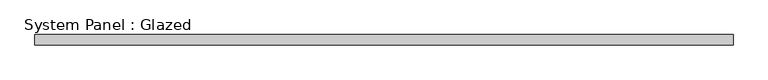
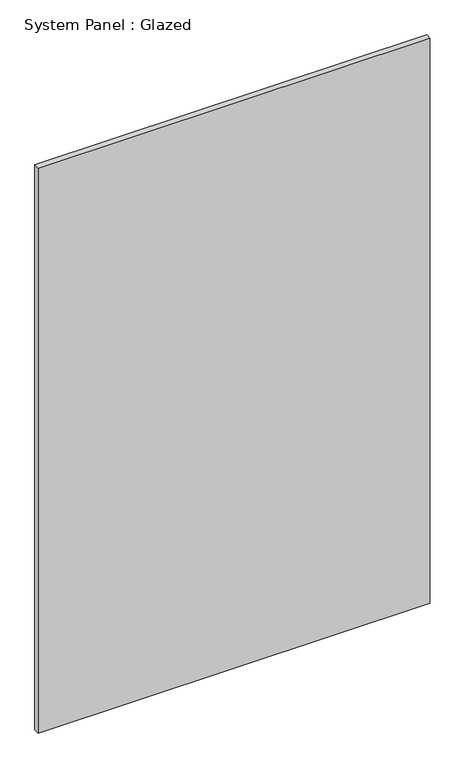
"""IFC4 building model written with IfcOpenShell, lengths in millimetres: plate geometry, System Panel : Glazed."""

import ifcopenshell
import ifcopenshell.guid

model = None  # the IFC model being written
_history = None  # IfcOwnerHistory: only IFC2X3 demands one
_inside = {}  # id of a spatial element -> (the spatial element, [elements in it])
_under = {}  # id of a project, library or spatial element -> (it, [spatial elements below it])
_declared = {}  # id of a project -> (the project, [libraries it declares])
_typed = {}  # id of a type object -> (the type object, [elements of that type])
_made_of = {}  # id of a material, layer set ... -> (it, [elements and type objects made of it])


def new_model(schema):
    """Start an empty IFC model of exactly this schema.

    Asked for "IFC4X3", IfcOpenShell would pick the latest addendum, in which some entities
    have other attributes; the version numbers below select the first issue.
    IFC2X3 requires an IfcOwnerHistory on every rooted entity: one is made here for all.
    """
    global model, _history
    if schema == "IFC4X3":
        model = ifcopenshell.file(schema_version=(4, 3, 0, 0))
    else:
        model = ifcopenshell.file(schema=schema)
    _inside.clear()
    _under.clear()
    _declared.clear()
    _typed.clear()
    _made_of.clear()
    _history = None
    if model.schema == "IFC2X3":
        org = make("IfcOrganization", Name="unknown")
        user = make(
            "IfcPersonAndOrganization",
            ThePerson=make("IfcPerson", FamilyName="unknown"),
            TheOrganization=org,
        )
        app = make(
            "IfcApplication",
            ApplicationDeveloper=org,
            Version="unknown",
            ApplicationFullName="unknown",
            ApplicationIdentifier="unknown",
        )
        _history = make(
            "IfcOwnerHistory",
            OwningUser=user,
            OwningApplication=app,
            ChangeAction="ADDED",
            CreationDate=0,
        )
    return model


def make(cls, **values):
    """One entity of the class cls with the attributes given. An attribute that is None is left unset."""
    return model.create_entity(
        cls, **{name: value for name, value in values.items() if value is not None}
    )


def rooted(cls, **values):
    """An entity with a GlobalId (a new one), such as an element, a storey or a relation."""
    return make(cls, GlobalId=ifcopenshell.guid.new(), OwnerHistory=_history, **values)


def si_unit(unit_type, name, prefix=None):
    """IfcSIUnit, for example si_unit("LENGTHUNIT", "METRE", prefix="MILLI")."""
    return make("IfcSIUnit", UnitType=unit_type, Prefix=prefix, Name=name)


def assignment(units):
    """IfcUnitAssignment: the units of a project."""
    return None if units is None else make("IfcUnitAssignment", Units=units)


def point(xyz):
    """IfcCartesianPoint."""
    return None if xyz is None else make("IfcCartesianPoint", Coordinates=xyz)


def direction(xyz):
    """IfcDirection."""
    return None if xyz is None else make("IfcDirection", DirectionRatios=xyz)


def frame(location, z_axis=None, x_axis=None):
    """IfcAxis2Placement3D, a coordinate frame: its origin and axes. An axis left out is left unset."""
    return make(
        "IfcAxis2Placement3D",
        Location=point(location),
        Axis=direction(z_axis),
        RefDirection=direction(x_axis),
    )


def origin():
    """The frame at (0, 0, 0) with its axes left unset."""
    return frame((0.0, 0.0, 0.0))


def origin_with_axes():
    """The frame at (0, 0, 0) with the z axis (0, 0, 1) and the x axis (1, 0, 0) written out."""
    return frame((0.0, 0.0, 0.0), z_axis=(0.0, 0.0, 1.0), x_axis=(1.0, 0.0, 0.0))


def place(relative_to, where):
    """IfcLocalPlacement: puts the frame where relative to a parent placement (None: the world)."""
    return make(
        "IfcLocalPlacement", PlacementRelTo=relative_to, RelativePlacement=where
    )


def context(
    kind, dimensions, precision=None, world=None, true_north=None, identifier=None
):
    """IfcGeometricRepresentationContext, for example the 3D "Model" context."""
    return make(
        "IfcGeometricRepresentationContext",
        ContextIdentifier=identifier,
        ContextType=kind,
        CoordinateSpaceDimension=dimensions,
        Precision=precision,
        WorldCoordinateSystem=world,
        TrueNorth=true_north,
    )


def project(units=None, contexts=None):
    """IfcProject with its units and contexts."""
    return rooted(
        "IfcProject",
        Name="project",
        RepresentationContexts=contexts,
        UnitsInContext=assignment(units),
    )


def spatial(cls, under=None, at=None, **own):
    """A site, building, storey or space (cls), placed at a placement, below another one or the project."""
    s = rooted(cls, ObjectPlacement=at, **own)
    if under is not None:
        _under.setdefault(under.id(), (under, []))[1].append(s)
    return s


def polyline(points):
    """IfcPolyline through the points."""
    return make("IfcPolyline", Points=[point(p) for p in points])


def outline(outer, holes=None, kind="AREA"):
    """IfcArbitraryClosedProfileDef: a profile drawn as a closed curve; with holes, ...WithVoids."""
    if holes is None:
        return make("IfcArbitraryClosedProfileDef", ProfileType=kind, OuterCurve=outer)
    return make(
        "IfcArbitraryProfileDefWithVoids",
        ProfileType=kind,
        OuterCurve=outer,
        InnerCurves=holes,
    )


def extrude(swept, where, along, depth):
    """IfcExtrudedAreaSolid: the profile swept, set in the frame where, extruded along a direction by depth."""
    return make(
        "IfcExtrudedAreaSolid",
        SweptArea=swept,
        Position=where,
        ExtrudedDirection=direction(along),
        Depth=depth,
    )


def shape(context_of_items, identifier, shape_type, items):
    """IfcShapeRepresentation: the items that make up one representation, for example the "Body"."""
    return make(
        "IfcShapeRepresentation",
        ContextOfItems=context_of_items,
        RepresentationIdentifier=identifier,
        RepresentationType=shape_type,
        Items=items,
    )


def source(mapping_origin, context_of_items, identifier, shape_type, items):
    """IfcRepresentationMap: a shape defined once, which mapped items show again and again."""
    return make(
        "IfcRepresentationMap",
        MappingOrigin=mapping_origin,
        MappedRepresentation=shape(context_of_items, identifier, shape_type, items),
    )


def transform(
    local_origin,
    x_axis=None,
    y_axis=None,
    z_axis=None,
    scale=None,
    scale2=None,
    scale3=None,
    uniform=True,
):
    """IfcCartesianTransformationOperator3D, or its non-uniform kind. x_axis, y_axis, z_axis: its Axis1, 2, 3."""
    if uniform:
        return make(
            "IfcCartesianTransformationOperator3D",
            Axis1=direction(x_axis),
            Axis2=direction(y_axis),
            LocalOrigin=point(local_origin),
            Scale=scale,
            Axis3=direction(z_axis),
        )
    return make(
        "IfcCartesianTransformationOperator3DnonUniform",
        Axis1=direction(x_axis),
        Axis2=direction(y_axis),
        LocalOrigin=point(local_origin),
        Scale=scale,
        Axis3=direction(z_axis),
        Scale2=scale2,
        Scale3=scale3,
    )


def mapped(mapping_source, mapping_target):
    """IfcMappedItem: shows the shape of a source again, moved by a transform."""
    return make(
        "IfcMappedItem", MappingSource=mapping_source, MappingTarget=mapping_target
    )


def made_of(thing, what):
    """Note that an element or type object is made of a material, layer set ...; save() writes the relation."""
    if what is not None:
        _made_of.setdefault(what.id(), (what, []))[1].append(thing)
    return thing


def element(
    cls,
    number,
    at=None,
    inside=None,
    cuts=None,
    type_object=None,
    material=None,
    context=None,
    identifier="Body",
    shape_type=None,
    held_by="IfcProductDefinitionShape",
    body=None,
    shapes=None,
    **own,
):
    """One element of the class cls, such as IfcWall. Its Tag is "e" and its number.

    at: its placement. inside: the storey or other place that contains it. cuts: it is an
    opening in that element (IfcRelVoidsElement). A single representation is given by context,
    identifier, shape_type and body (its items); several are given by shapes. held_by: the class
    of the entity that holds the representations. save() writes the other relations.
    """
    e = rooted(cls, Tag="e%d" % number, ObjectPlacement=at, **own)
    if body is not None:
        shapes = [shape(context, identifier, shape_type, body)]
    if shapes is not None:
        e.Representation = make(held_by, Representations=shapes)
    if inside is not None:
        _inside.setdefault(inside.id(), (inside, []))[1].append(e)
    if cuts is not None:
        rooted(
            "IfcRelVoidsElement", RelatingBuildingElement=cuts, RelatedOpeningElement=e
        )
    if type_object is not None:
        _typed.setdefault(type_object.id(), (type_object, []))[1].append(e)
    return made_of(e, material)


def aggregate(whole, parts):
    """IfcRelAggregates: a whole, such as a stair, and the parts it consists of."""
    return rooted("IfcRelAggregates", RelatingObject=whole, RelatedObjects=parts)


def save(model, path):
    """Write the relations noted so far, then the file.

    IfcRelAggregates (storeys below a building ...), IfcRelContainedInSpatialStructure (elements
    in a storey), IfcRelDefinesByType, IfcRelAssociatesMaterial and IfcRelDeclares: one each for
    every whole, place, type object, material and project.
    """
    for whole, parts in _under.values():
        aggregate(whole, parts)
    for where, things in _inside.values():
        rooted(
            "IfcRelContainedInSpatialStructure",
            RelatedElements=things,
            RelatingStructure=where,
        )
    for kind, things in _typed.values():
        rooted("IfcRelDefinesByType", RelatedObjects=things, RelatingType=kind)
    for what, things in _made_of.values():
        rooted("IfcRelAssociatesMaterial", RelatedObjects=things, RelatingMaterial=what)
    for by, libraries in _declared.values():
        rooted("IfcRelDeclares", RelatingContext=by, RelatedDefinitions=libraries)
    model.write(path)


def system_panel_glazed_dbac97f0(model_context):
    return source(origin(), model_context, "Body", "SweptSolid", [
        extrude(outline(polyline([(877.375, 19.05), (-877.375, 19.05), (-877.375, 44.45), (877.375, 44.45), (877.375, 19.05)])), origin_with_axes(), (0.0, 0.0, 1.0), 2673.0),
    ])


if __name__ == "__main__":
    model = new_model("IFC4")
    model_context = context("Model", 3, world=origin())
    ifc_project = project(units=[si_unit("LENGTHUNIT", "METRE", prefix="MILLI")], contexts=[model_context])
    site = spatial("IfcSite", under=ifc_project)
    building = spatial("IfcBuilding", under=site)
    placement = place(None, origin())
    system_panel_glazed_shape = system_panel_glazed_dbac97f0(model_context)
    element("IfcPlate", 1, ObjectType="System Panel : Glazed", at=placement, inside=building, context=model_context, shape_type="MappedRepresentation", body=[
        mapped(system_panel_glazed_shape, transform((0.0, 0.0, 0.0), x_axis=(1.0, 0.0, 0.0), y_axis=(0.0, 1.0, 0.0), z_axis=(0.0, 0.0, 1.0))),
    ])
    save(model, "model.ifc")
